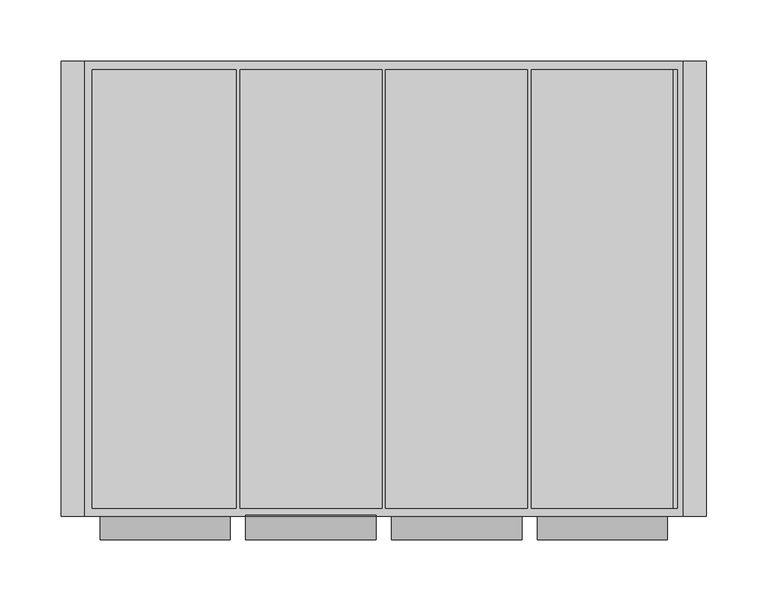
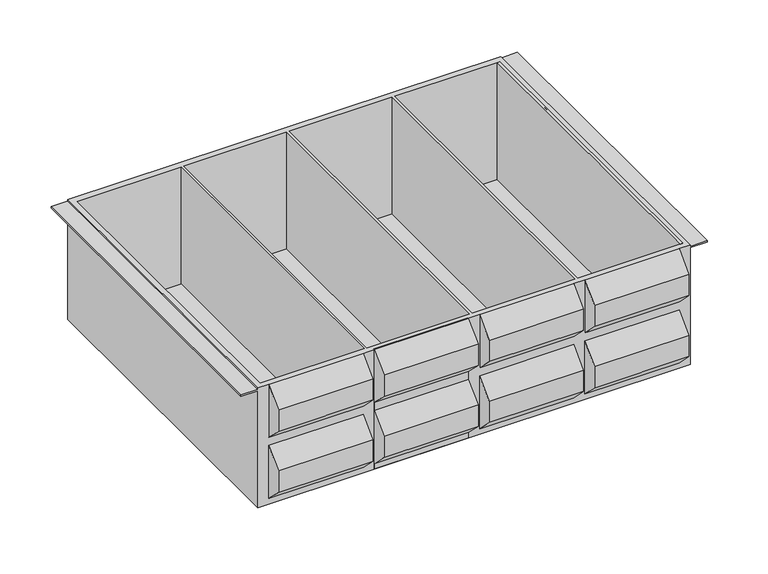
"""IFC4 building model written with IfcOpenShell, lengths in millimetres: furniture geometry."""

from ifc_helpers import new_model, si_unit, frame, origin, place, context, project, spatial, polyline, outline, extrude, faceted_brep, source, transform, mapped, element, save


def furniture_59e9410e(model_context):
    return source(origin(), model_context, "Body", "SolidModel", [
        extrude(outline(polyline([(-188.9125, 661.9964277), (-169.8625, 681.0527777), (-169.8625, 690.5777731), (-188.9125, 709.6214231), (-188.9125, 735.021425), (-169.8498034, 754.0841216), (-169.06875, 754.0841216), (-169.06875, 611.2091216), (-169.8625, 611.2091216), (-169.8625, 617.5591246), (-188.9125, 636.5964246), (-188.9125, 661.9964277)])), frame((-119.0625, 0.0, 0.0), z_axis=(1.0, 0.0, 0.0), x_axis=(0.0, 1.0, 0.0)), (0.0, 0.0, 1.0), 106.3625),
        extrude(outline(polyline([(233.3752, 194.6275), (233.3752, -163.5125), (230.2002, -163.5125), (230.2002, 194.6275), (233.3752, 194.6275)])), frame((0.0, 0.0, 614.2352935), z_axis=(0.0, 0.0, 1.0), x_axis=(1.0, 0.0, 0.0)), (0.0, 0.0, 1.0), 139.8488281),
        faceted_brep([(-238.125, -169.8625, 754.0841216), (-250.825, -169.8625, 754.0841216), (-250.825, -169.8625, 752.4839246), (-269.875, -169.8625, 752.4839246), (-269.875, -169.8625, 750.8964246), (-250.825, -169.8625, 750.8964246), (-250.825, -169.8625, 611.2091216), (238.125, -169.8625, 611.2091216), (238.125, -169.8625, 750.8964246), (257.175, -169.8625, 750.8964246), (257.175, -169.8625, 752.4839246), (238.125, -169.8625, 752.4839246), (238.125, -169.8625, 754.0841216), (225.4377, -169.8625, 754.0841216), (225.4377, -169.8625, 690.577773), (119.0625, -169.8625, 690.577773), (119.0625, -169.8625, 754.0841216), (106.3625, -169.8625, 754.0841216), (106.3625, -169.8625, 690.5777731), (0.0, -169.8625, 690.5777731), (0.0, -169.8625, 754.0841216), (-131.7625, -169.8625, 754.0841216), (-131.7625, -169.8625, 690.5777731), (-238.125, -169.8625, 690.5777731), (-131.7625, -169.8625, 681.0527777), (-131.7625, -169.8625, 617.5591246), (-238.125, -169.8625, 617.5591246), (-238.125, -169.8625, 681.0527777), (106.3625, -169.8625, 681.0527776), (106.3625, -169.8625, 617.5591246), (0.0, -169.8625, 617.5591246), (0.0, -169.8625, 681.0527776), (119.0625, -169.8625, 617.5591245), (119.0625, -169.8625, 681.0527775), (225.4377, -169.8625, 681.0527775), (225.4377, -169.8625, 617.5591245), (-250.825, 201.6125, 754.0841216), (238.125, 201.6125, 754.0841216), (238.125, 201.6125, 752.4839246), (257.175, 201.6125, 752.4839246), (257.175, 201.6125, 750.8964246), (238.125, 201.6125, 750.8964246), (238.125, 201.6125, 611.2091216), (-250.825, 201.6125, 611.2091216), (-250.825, 201.6125, 750.8964246), (-269.875, 201.6125, 750.8964246), (-269.875, 201.6125, 752.4839246), (-250.825, 201.6125, 752.4839246), (-244.475, 194.6275, 754.0841216), (-127.0, 194.6275, 754.0841216), (-127.0, -163.5125, 754.0841216), (-244.475, -163.5125, 754.0841216), (-7.9375, -163.5125, 754.0841216), (-123.825, -163.5125, 754.0841216), (-123.825, 194.6275, 754.0841216), (-7.9375, 194.6275, 754.0841216), (111.125, -163.5125, 754.0841216), (-4.7625, -163.5125, 754.0841216), (-4.7625, 194.6275, 754.0841216), (111.125, 194.6275, 754.0841216), (231.775, 194.6275, 754.0841216), (231.775, -163.5125, 754.0841216), (114.3, -163.5125, 754.0841216), (114.3, 194.6275, 754.0841216), (-131.7625, -188.9125, 661.9964277), (-131.7625, -188.9125, 636.5964246), (-131.7625, -188.9125, 735.021425), (-131.7625, -188.9125, 709.6214231), (-238.125, -188.9125, 661.9964277), (-238.125, -188.9125, 636.5964246), (-238.125, -188.9125, 709.6214231), (-238.125, -188.9125, 735.021425), (231.775, -163.5125, 614.2352935), (231.775, 194.6275, 614.2352935), (114.3, 194.6275, 614.2352935), (114.3, -163.5125, 614.2352935), (-244.475, 194.6275, 614.2352935), (-244.475, -163.5125, 614.2352935), (-127.0, -163.5125, 614.2352935), (-127.0, 194.6275, 614.2352935), (-4.7625, -163.5125, 614.2352935), (111.125, -163.5125, 614.2352935), (111.125, 194.6275, 614.2352935), (-4.7625, 194.6275, 614.2352935), (-123.825, -163.5125, 614.2352935), (-7.9375, -163.5125, 614.2352935), (-7.9375, 194.6275, 614.2352935), (-123.825, 194.6275, 614.2352935), (106.3625, -188.9125, 661.9964277), (106.3625, -188.9125, 636.5964246), (106.3625, -188.9125, 735.021425), (106.3625, -188.9125, 709.6214231), (0.0, -188.9125, 661.9964277), (0.0, -188.9125, 636.5964246), (0.0, -188.9125, 709.6214231), (0.0, -188.9125, 735.021425), (119.0625, -188.9125, 661.9964277), (119.0625, -188.9125, 636.5964246), (119.0625, -188.9125, 709.6214231), (119.0625, -188.9125, 735.021425), (225.4377, -188.9125, 661.9964277), (225.4377, -188.9125, 636.5964246), (225.4377, -188.9125, 735.021425), (225.4377, -188.9125, 709.6214231)], [[[0, 1, 2, 3, 4, 5, 6, 7, 8, 9, 10, 11, 12, 13, 14, 15, 16, 17, 18, 19, 20, 21, 22, 23], [24, 25, 26, 27], [28, 29, 30, 31], [32, 33, 34, 35]], [[36, 37, 38, 39, 40, 41, 42, 43, 44, 45, 46, 47]], [[43, 42, 7, 6]], [[7, 42, 41, 8]], [[37, 12, 11, 38]], [[37, 36, 1, 0, 21, 20, 17, 16, 13, 12], [48, 49, 50, 51], [52, 53, 54, 55], [56, 57, 58, 59], [60, 61, 62, 63]], [[43, 6, 5, 44]], [[1, 36, 47, 2]], [[64, 65, 25, 24]], [[21, 66, 67, 22]], [[68, 27, 26, 69]], [[23, 70, 71, 0]], [[65, 64, 68, 69]], [[25, 65, 69, 26]], [[66, 21, 0, 71]], [[67, 66, 71, 70]], [[22, 67, 70, 23]], [[64, 24, 27, 68]], [[72, 73, 74, 75]], [[76, 77, 78, 79]], [[80, 81, 82, 83]], [[84, 85, 86, 87]], [[53, 52, 85, 84]], [[57, 56, 81, 80]], [[61, 72, 75, 62]], [[77, 51, 50, 78]], [[73, 72, 61, 60]], [[55, 54, 87, 86]], [[59, 58, 83, 82]], [[73, 60, 63, 74]], [[48, 76, 79, 49]], [[77, 76, 48, 51]], [[88, 89, 29, 28]], [[17, 90, 91, 18]], [[92, 31, 30, 93]], [[19, 94, 95, 20]], [[89, 88, 92, 93]], [[29, 89, 93, 30]], [[90, 17, 20, 95]], [[91, 90, 95, 94]], [[18, 91, 94, 19]], [[88, 28, 31, 92]], [[96, 33, 32, 97]], [[15, 98, 99, 16]], [[100, 101, 35, 34]], [[13, 102, 103, 14]], [[33, 96, 100, 34]], [[98, 15, 14, 103]], [[99, 98, 103, 102]], [[16, 99, 102, 13]], [[97, 32, 35, 101]], [[96, 97, 101, 100]], [[46, 45, 4, 3]], [[47, 46, 3, 2]], [[45, 44, 5, 4]], [[41, 40, 9, 8]], [[39, 38, 11, 10]], [[40, 39, 10, 9]], [[54, 53, 84, 87]], [[50, 49, 79, 78]], [[63, 62, 75, 74]], [[56, 59, 82, 81]], [[58, 57, 80, 83]], [[52, 55, 86, 85]]]),
    ])


if __name__ == "__main__":
    model = new_model("IFC4")
    model_context = context("Model", 3, world=origin())
    ifc_project = project(units=[si_unit("LENGTHUNIT", "METRE", prefix="MILLI")], contexts=[model_context])
    site = spatial("IfcSite", under=ifc_project)
    building = spatial("IfcBuilding", under=site)
    placement = place(None, origin())
    furniture_shape = furniture_59e9410e(model_context)
    element("IfcFurniture", 1, ObjectType="HermanMiller_Carts_CT542_Cassette : 6\"H x 15\"D x 20\"W Bin", at=placement, inside=building, context=model_context, shape_type="MappedRepresentation", body=[
        mapped(furniture_shape, transform((0.0, 0.0, 0.0), x_axis=(1.0, 0.0, 0.0), y_axis=(0.0, 1.0, 0.0), z_axis=(0.0, 0.0, 1.0))),
    ])
    save(model, "model.ifc")
